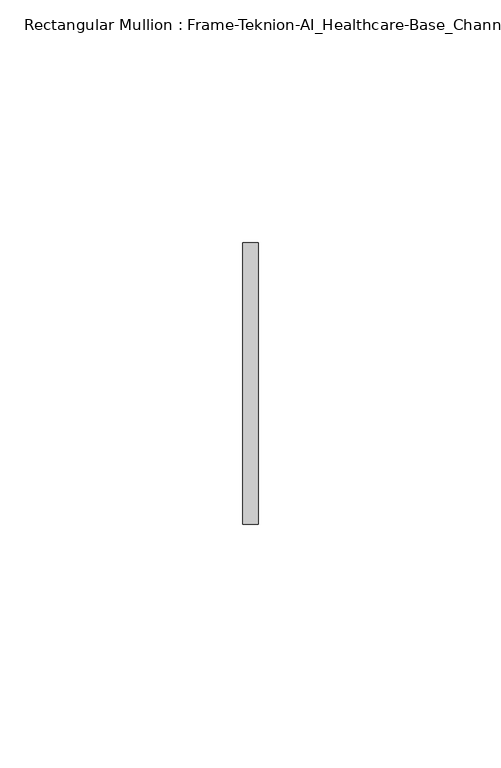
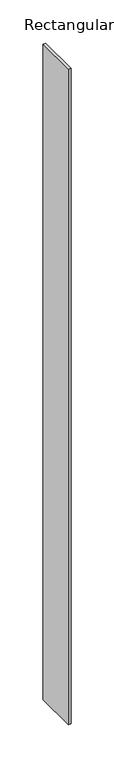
"""IFC4 building model written with IfcOpenShell, lengths in millimetres: member geometry, Rectangular Mullion : Frame-Teknion-AI_Healthcare-Base_Channel."""

import ifcopenshell
import ifcopenshell.guid

model = None  # the IFC model being written
_history = None  # IfcOwnerHistory: only IFC2X3 demands one
_inside = {}  # id of a spatial element -> (the spatial element, [elements in it])
_under = {}  # id of a project, library or spatial element -> (it, [spatial elements below it])
_declared = {}  # id of a project -> (the project, [libraries it declares])
_typed = {}  # id of a type object -> (the type object, [elements of that type])
_made_of = {}  # id of a material, layer set ... -> (it, [elements and type objects made of it])


def new_model(schema):
    """Start an empty IFC model of exactly this schema.

    Asked for "IFC4X3", IfcOpenShell would pick the latest addendum, in which some entities
    have other attributes; the version numbers below select the first issue.
    IFC2X3 requires an IfcOwnerHistory on every rooted entity: one is made here for all.
    """
    global model, _history
    if schema == "IFC4X3":
        model = ifcopenshell.file(schema_version=(4, 3, 0, 0))
    else:
        model = ifcopenshell.file(schema=schema)
    _inside.clear()
    _under.clear()
    _declared.clear()
    _typed.clear()
    _made_of.clear()
    _history = None
    if model.schema == "IFC2X3":
        org = make("IfcOrganization", Name="unknown")
        user = make(
            "IfcPersonAndOrganization",
            ThePerson=make("IfcPerson", FamilyName="unknown"),
            TheOrganization=org,
        )
        app = make(
            "IfcApplication",
            ApplicationDeveloper=org,
            Version="unknown",
            ApplicationFullName="unknown",
            ApplicationIdentifier="unknown",
        )
        _history = make(
            "IfcOwnerHistory",
            OwningUser=user,
            OwningApplication=app,
            ChangeAction="ADDED",
            CreationDate=0,
        )
    return model


def make(cls, **values):
    """One entity of the class cls with the attributes given. An attribute that is None is left unset."""
    return model.create_entity(
        cls, **{name: value for name, value in values.items() if value is not None}
    )


def rooted(cls, **values):
    """An entity with a GlobalId (a new one), such as an element, a storey or a relation."""
    return make(cls, GlobalId=ifcopenshell.guid.new(), OwnerHistory=_history, **values)


def si_unit(unit_type, name, prefix=None):
    """IfcSIUnit, for example si_unit("LENGTHUNIT", "METRE", prefix="MILLI")."""
    return make("IfcSIUnit", UnitType=unit_type, Prefix=prefix, Name=name)


def assignment(units):
    """IfcUnitAssignment: the units of a project."""
    return None if units is None else make("IfcUnitAssignment", Units=units)


def point(xyz):
    """IfcCartesianPoint."""
    return None if xyz is None else make("IfcCartesianPoint", Coordinates=xyz)


def direction(xyz):
    """IfcDirection."""
    return None if xyz is None else make("IfcDirection", DirectionRatios=xyz)


def frame(location, z_axis=None, x_axis=None):
    """IfcAxis2Placement3D, a coordinate frame: its origin and axes. An axis left out is left unset."""
    return make(
        "IfcAxis2Placement3D",
        Location=point(location),
        Axis=direction(z_axis),
        RefDirection=direction(x_axis),
    )


def origin():
    """The frame at (0, 0, 0) with its axes left unset."""
    return frame((0.0, 0.0, 0.0))


def place(relative_to, where):
    """IfcLocalPlacement: puts the frame where relative to a parent placement (None: the world)."""
    return make(
        "IfcLocalPlacement", PlacementRelTo=relative_to, RelativePlacement=where
    )


def context(
    kind, dimensions, precision=None, world=None, true_north=None, identifier=None
):
    """IfcGeometricRepresentationContext, for example the 3D "Model" context."""
    return make(
        "IfcGeometricRepresentationContext",
        ContextIdentifier=identifier,
        ContextType=kind,
        CoordinateSpaceDimension=dimensions,
        Precision=precision,
        WorldCoordinateSystem=world,
        TrueNorth=true_north,
    )


def project(units=None, contexts=None):
    """IfcProject with its units and contexts."""
    return rooted(
        "IfcProject",
        Name="project",
        RepresentationContexts=contexts,
        UnitsInContext=assignment(units),
    )


def spatial(cls, under=None, at=None, **own):
    """A site, building, storey or space (cls), placed at a placement, below another one or the project."""
    s = rooted(cls, ObjectPlacement=at, **own)
    if under is not None:
        _under.setdefault(under.id(), (under, []))[1].append(s)
    return s


def polyline(points):
    """IfcPolyline through the points."""
    return make("IfcPolyline", Points=[point(p) for p in points])


def outline(outer, holes=None, kind="AREA"):
    """IfcArbitraryClosedProfileDef: a profile drawn as a closed curve; with holes, ...WithVoids."""
    if holes is None:
        return make("IfcArbitraryClosedProfileDef", ProfileType=kind, OuterCurve=outer)
    return make(
        "IfcArbitraryProfileDefWithVoids",
        ProfileType=kind,
        OuterCurve=outer,
        InnerCurves=holes,
    )


def extrude(swept, where, along, depth):
    """IfcExtrudedAreaSolid: the profile swept, set in the frame where, extruded along a direction by depth."""
    return make(
        "IfcExtrudedAreaSolid",
        SweptArea=swept,
        Position=where,
        ExtrudedDirection=direction(along),
        Depth=depth,
    )


def shape(context_of_items, identifier, shape_type, items):
    """IfcShapeRepresentation: the items that make up one representation, for example the "Body"."""
    return make(
        "IfcShapeRepresentation",
        ContextOfItems=context_of_items,
        RepresentationIdentifier=identifier,
        RepresentationType=shape_type,
        Items=items,
    )


def source(mapping_origin, context_of_items, identifier, shape_type, items):
    """IfcRepresentationMap: a shape defined once, which mapped items show again and again."""
    return make(
        "IfcRepresentationMap",
        MappingOrigin=mapping_origin,
        MappedRepresentation=shape(context_of_items, identifier, shape_type, items),
    )


def transform(
    local_origin,
    x_axis=None,
    y_axis=None,
    z_axis=None,
    scale=None,
    scale2=None,
    scale3=None,
    uniform=True,
):
    """IfcCartesianTransformationOperator3D, or its non-uniform kind. x_axis, y_axis, z_axis: its Axis1, 2, 3."""
    if uniform:
        return make(
            "IfcCartesianTransformationOperator3D",
            Axis1=direction(x_axis),
            Axis2=direction(y_axis),
            LocalOrigin=point(local_origin),
            Scale=scale,
            Axis3=direction(z_axis),
        )
    return make(
        "IfcCartesianTransformationOperator3DnonUniform",
        Axis1=direction(x_axis),
        Axis2=direction(y_axis),
        LocalOrigin=point(local_origin),
        Scale=scale,
        Axis3=direction(z_axis),
        Scale2=scale2,
        Scale3=scale3,
    )


def mapped(mapping_source, mapping_target):
    """IfcMappedItem: shows the shape of a source again, moved by a transform."""
    return make(
        "IfcMappedItem", MappingSource=mapping_source, MappingTarget=mapping_target
    )


def made_of(thing, what):
    """Note that an element or type object is made of a material, layer set ...; save() writes the relation."""
    if what is not None:
        _made_of.setdefault(what.id(), (what, []))[1].append(thing)
    return thing


def element(
    cls,
    number,
    at=None,
    inside=None,
    cuts=None,
    type_object=None,
    material=None,
    context=None,
    identifier="Body",
    shape_type=None,
    held_by="IfcProductDefinitionShape",
    body=None,
    shapes=None,
    **own,
):
    """One element of the class cls, such as IfcWall. Its Tag is "e" and its number.

    at: its placement. inside: the storey or other place that contains it. cuts: it is an
    opening in that element (IfcRelVoidsElement). A single representation is given by context,
    identifier, shape_type and body (its items); several are given by shapes. held_by: the class
    of the entity that holds the representations. save() writes the other relations.
    """
    e = rooted(cls, Tag="e%d" % number, ObjectPlacement=at, **own)
    if body is not None:
        shapes = [shape(context, identifier, shape_type, body)]
    if shapes is not None:
        e.Representation = make(held_by, Representations=shapes)
    if inside is not None:
        _inside.setdefault(inside.id(), (inside, []))[1].append(e)
    if cuts is not None:
        rooted(
            "IfcRelVoidsElement", RelatingBuildingElement=cuts, RelatedOpeningElement=e
        )
    if type_object is not None:
        _typed.setdefault(type_object.id(), (type_object, []))[1].append(e)
    return made_of(e, material)


def aggregate(whole, parts):
    """IfcRelAggregates: a whole, such as a stair, and the parts it consists of."""
    return rooted("IfcRelAggregates", RelatingObject=whole, RelatedObjects=parts)


def save(model, path):
    """Write the relations noted so far, then the file.

    IfcRelAggregates (storeys below a building ...), IfcRelContainedInSpatialStructure (elements
    in a storey), IfcRelDefinesByType, IfcRelAssociatesMaterial and IfcRelDeclares: one each for
    every whole, place, type object, material and project.
    """
    for whole, parts in _under.values():
        aggregate(whole, parts)
    for where, things in _inside.values():
        rooted(
            "IfcRelContainedInSpatialStructure",
            RelatedElements=things,
            RelatingStructure=where,
        )
    for kind, things in _typed.values():
        rooted("IfcRelDefinesByType", RelatedObjects=things, RelatingType=kind)
    for what, things in _made_of.values():
        rooted("IfcRelAssociatesMaterial", RelatedObjects=things, RelatingMaterial=what)
    for by, libraries in _declared.values():
        rooted("IfcRelDeclares", RelatingContext=by, RelatedDefinitions=libraries)
    model.write(path)


def rectangular_mullion_frame_teknion_ai_healthcare_base_channel_9b4465f6(model_context):
    return source(origin(), model_context, "Body", "SweptSolid", [
        extrude(outline(polyline([(0.0, 29.0214844), (0.0, -29.0214844), (-3.175, -29.0214844), (-3.175, 29.0214844), (0.0, 29.0214844)])), frame((0.0, 0.0, -920.9092012), z_axis=(0.0, 0.0, 1.0), x_axis=(1.0, 0.0, 0.0)), (0.0, 0.0, 1.0), 920.9092012),
    ])


if __name__ == "__main__":
    model = new_model("IFC4")
    model_context = context("Model", 3, world=origin())
    ifc_project = project(units=[si_unit("LENGTHUNIT", "METRE", prefix="MILLI")], contexts=[model_context])
    site = spatial("IfcSite", under=ifc_project)
    building = spatial("IfcBuilding", under=site)
    placement = place(None, origin())
    rectangular_mullion_frame_teknion_ai_healthcare_base_channel_shape = rectangular_mullion_frame_teknion_ai_healthcare_base_channel_9b4465f6(model_context)
    element("IfcMember", 1, ObjectType="Rectangular Mullion : Frame-Teknion-AI_Healthcare-Base_Channel", at=placement, inside=building, context=model_context, shape_type="MappedRepresentation", body=[
        mapped(rectangular_mullion_frame_teknion_ai_healthcare_base_channel_shape, transform((0.0, 0.0, 0.0), x_axis=(1.0, 0.0, 0.0), y_axis=(0.0, 1.0, 0.0), z_axis=(0.0, 0.0, 1.0))),
    ])
    save(model, "model.ifc")
